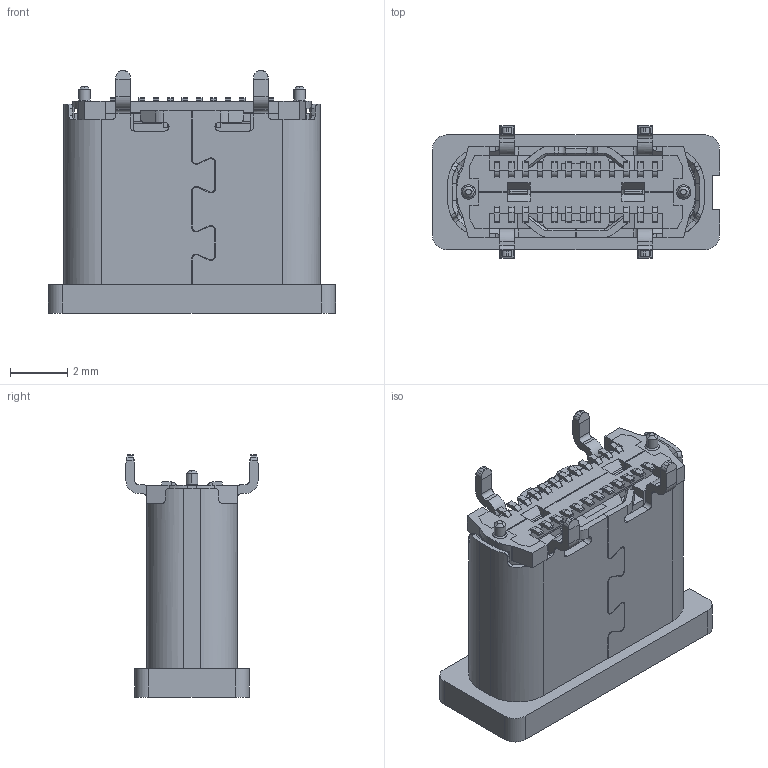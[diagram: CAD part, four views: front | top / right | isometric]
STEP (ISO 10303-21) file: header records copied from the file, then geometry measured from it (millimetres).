
FILE_DESCRIPTION((' '),'2;1');
FILE_NAME( 'U5155-24PN6.5LXX.stp', '2026-05-12T10:26:08', (' '), ('--- ---'), ' V2026.1 Dec 31 2025', ' 2026 (c)', ' ');
FILE_SCHEMA(('AP242_MANAGED_MODEL_BASED_3D_ENGINEERING_MIM_LF { 1 0 10303 442 1 1 4 }'));
Length unit declared in the file: millimetre
Products named in the file (5): MSBR-2_1; H6_5-CHENGPIN_24PIN-CUS7_ASM_1_ASM; H6_5-CHENGPIN_24PIN-CUS77_1; U5155-24PN6.5LXX(2); U5155-24PN6.5LXX
Assembly tree (4 placements, depth 4):
  U5155-24PN6.5LXX
    U5155-24PN6.5LXX(2)
      H6_5-CHENGPIN_24PIN-CUS7_ASM_1_ASM
        MSBR-2_1
      H6_5-CHENGPIN_24PIN-CUS77_1
Bounding box: 10 x 4.6 x 8.45 mm (x, y, z)
Volume: 90.3 mm3; surface area: 1259.9 mm2
Topology: 34 solids, 42 shells, 9409 faces, 26207 edges, 16464 vertices
Faces by surface type: plane 6409, cylinder 2500, cone 400, torus 64, bspline 36
Entity records: 307041 total; most frequent: CARTESIAN_POINT 83871, ORIENTED_EDGE 52241, DIRECTION 36448, EDGE_CURVE 26203, VECTOR 17662, LINE 17662, VERTEX_POINT 16464, EDGE_LOOP 9775
